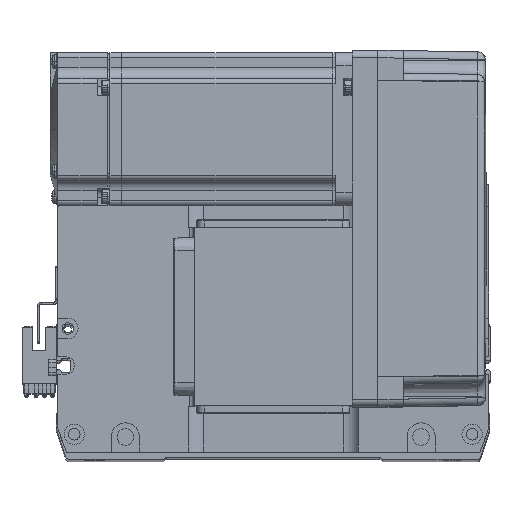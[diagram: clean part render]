
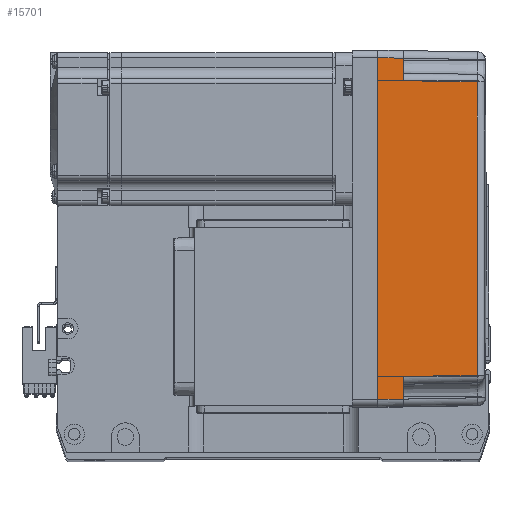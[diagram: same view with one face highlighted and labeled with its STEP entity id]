
A CAD part, top view. The second image highlights one B-rep face of the part: STEP entity #15701.
In plain terms, the highlighted planar face has unit normal (0.018, 0, 1) as drawn and (0, -1, 0.017) by its records, which use the part's own axes.
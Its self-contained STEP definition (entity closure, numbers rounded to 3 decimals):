
#77 = VERTEX_POINT ( 'NONE', #37282 ) ;
#2777 = VERTEX_POINT ( 'NONE', #36735 ) ;
#3477 = CARTESIAN_POINT ( 'NONE',  ( 70., -36., 0. ) ) ;
#3930 = VECTOR ( 'NONE', #45482, 1000. ) ;
#4940 = ORIENTED_EDGE ( 'NONE', *, *, #54763, .T. ) ;
#7055 = DIRECTION ( 'NONE',  ( -0.017, 0.017, 1. ) ) ;
#7969 = DIRECTION ( 'NONE',  ( 0., -0.017, -1. ) ) ;
#10147 = VERTEX_POINT ( 'NONE', #55925 ) ;
#10418 = ORIENTED_EDGE ( 'NONE', *, *, #31340, .F. ) ;
#10988 = B_SPLINE_CURVE_WITH_KNOTS ( 'NONE', 3,
 ( #51572, #14471, #23934, #23558 ),
 .UNSPECIFIED., .F., .F.,
 ( 4, 4 ),
 ( 0., 1. ),
 .UNSPECIFIED. ) ;
#12595 = VECTOR ( 'NONE', #50846, 1000. ) ;
#12874 = ORIENTED_EDGE ( 'NONE', *, *, #25337, .T. ) ;
#13642 = LINE ( 'NONE', #30007, #29045 ) ;
#14072 = LINE ( 'NONE', #23654, #12595 ) ;
#14471 = CARTESIAN_POINT ( 'NONE',  ( 19.165, -35.316, 39.181 ) ) ;
#15412 = LINE ( 'NONE', #41309, #51345 ) ;
#15701 = ADVANCED_FACE ( 'NONE', ( #27465 ), #46106, .T. ) ;
#16105 = ORIENTED_EDGE ( 'NONE', *, *, #29909, .T. ) ;
#16786 = CARTESIAN_POINT ( 'NONE',  ( -67., -36., 0. ) ) ;
#18118 = DIRECTION ( 'NONE',  ( -1., 0., 0. ) ) ;
#18237 = DIRECTION ( 'NONE',  ( -0.017, -0.017, -1. ) ) ;
#18386 = DIRECTION ( 'NONE',  ( 0.017, 0.017, 1. ) ) ;
#18492 = VERTEX_POINT ( 'NONE', #57429 ) ;
#22522 = CARTESIAN_POINT ( 'NONE',  ( 57.495, -35.32, 38.985 ) ) ;
#22807 = VERTEX_POINT ( 'NONE', #29811 ) ;
#22999 = LINE ( 'NONE', #32098, #3930 ) ;
#23289 = VERTEX_POINT ( 'NONE', #23556 ) ;
#23556 = CARTESIAN_POINT ( 'NONE',  ( -66.826, -35.825, 10. ) ) ;
#23558 = CARTESIAN_POINT ( 'NONE',  ( -57.495, -35.32, 38.985 ) ) ;
#23654 = CARTESIAN_POINT ( 'NONE',  ( 70., -35.825, 10. ) ) ;
#23934 = CARTESIAN_POINT ( 'NONE',  ( -19.165, -35.316, 39.181 ) ) ;
#24819 = VECTOR ( 'NONE', #18237, 1000. ) ;
#25046 = ORIENTED_EDGE ( 'NONE', *, *, #40858, .T. ) ;
#25337 = EDGE_CURVE ( 'NONE', #2777, #60585, #13642, .T. ) ;
#26537 = VECTOR ( 'NONE', #18118, 1000. ) ;
#26624 = DIRECTION ( 'NONE',  ( 0., -1., 0.017 ) ) ;
#27357 = EDGE_CURVE ( 'NONE', #22807, #23289, #14072, .T. ) ;
#27366 = EDGE_CURVE ( 'NONE', #77, #58315, #51466, .T. ) ;
#27465 = FACE_OUTER_BOUND ( 'NONE', #42212, .T. ) ;
#29045 = VECTOR ( 'NONE', #7055, 1000. ) ;
#29811 = CARTESIAN_POINT ( 'NONE',  ( -58., -35.825, 10. ) ) ;
#29909 = EDGE_CURVE ( 'NONE', #10147, #22807, #48944, .T. ) ;
#30007 = CARTESIAN_POINT ( 'NONE',  ( 58., -35.825, 10. ) ) ;
#31340 = EDGE_CURVE ( 'NONE', #58315, #23289, #15412, .T. ) ;
#32098 = CARTESIAN_POINT ( 'NONE',  ( 67., -36., 0. ) ) ;
#35817 = CARTESIAN_POINT ( 'NONE',  ( 70., -35.825, 10. ) ) ;
#36735 = CARTESIAN_POINT ( 'NONE',  ( 58., -35.825, 10. ) ) ;
#37282 = CARTESIAN_POINT ( 'NONE',  ( 67., -36., 0. ) ) ;
#38929 = ORIENTED_EDGE ( 'NONE', *, *, #52105, .T. ) ;
#39196 = VECTOR ( 'NONE', #54678, 1000. ) ;
#40858 = EDGE_CURVE ( 'NONE', #60585, #10147, #10988, .T. ) ;
#41309 = CARTESIAN_POINT ( 'NONE',  ( -66.959, -35.958, 2.39 ) ) ;
#41991 = CARTESIAN_POINT ( 'NONE',  ( -57.495, -35.32, 38.985 ) ) ;
#42212 = EDGE_LOOP ( 'NONE', ( #4940, #38929, #12874, #25046, #16105, #47425, #10418, #42602 ) ) ;
#42602 = ORIENTED_EDGE ( 'NONE', *, *, #27366, .F. ) ;
#42817 = AXIS2_PLACEMENT_3D ( 'NONE', #3477, #26624, #7969 ) ;
#45482 = DIRECTION ( 'NONE',  ( -0.017, 0.017, 1. ) ) ;
#46106 = PLANE ( 'NONE',  #42817 ) ;
#46178 = CARTESIAN_POINT ( 'NONE',  ( 0., -36., 0. ) ) ;
#47425 = ORIENTED_EDGE ( 'NONE', *, *, #27357, .T. ) ;
#48944 = LINE ( 'NONE', #41991, #24819 ) ;
#50846 = DIRECTION ( 'NONE',  ( -1., 0., 0. ) ) ;
#51345 = VECTOR ( 'NONE', #18386, 1000. ) ;
#51466 = LINE ( 'NONE', #46178, #26537 ) ;
#51572 = CARTESIAN_POINT ( 'NONE',  ( 57.495, -35.32, 38.985 ) ) ;
#52105 = EDGE_CURVE ( 'NONE', #18492, #2777, #53817, .T. ) ;
#53817 = LINE ( 'NONE', #35817, #39196 ) ;
#54678 = DIRECTION ( 'NONE',  ( -1., 0., 0. ) ) ;
#54763 = EDGE_CURVE ( 'NONE', #77, #18492, #22999, .T. ) ;
#55925 = CARTESIAN_POINT ( 'NONE',  ( -57.495, -35.32, 38.985 ) ) ;
#57429 = CARTESIAN_POINT ( 'NONE',  ( 66.826, -35.825, 10. ) ) ;
#58315 = VERTEX_POINT ( 'NONE', #16786 ) ;
#60585 = VERTEX_POINT ( 'NONE', #22522 ) ;
